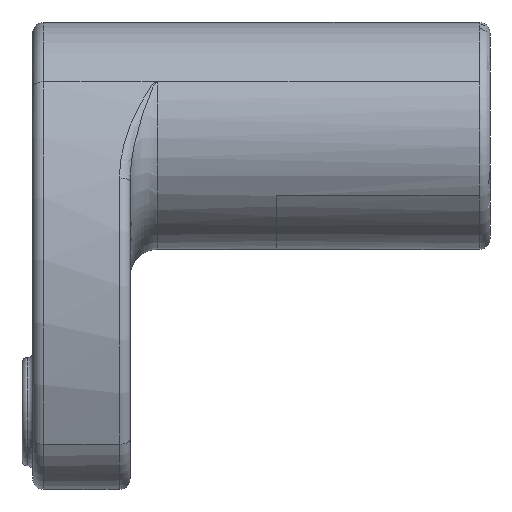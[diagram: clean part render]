
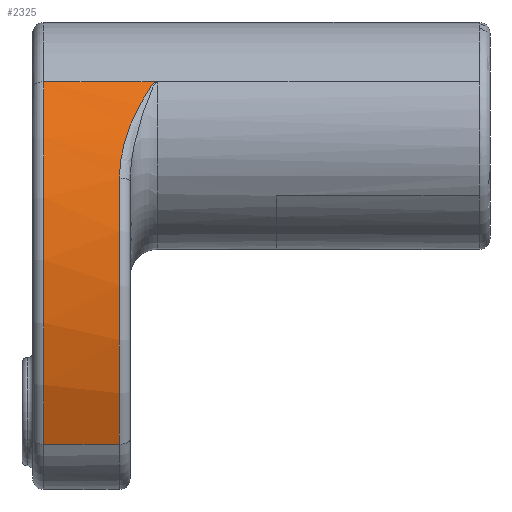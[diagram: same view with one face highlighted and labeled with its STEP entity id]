
A CAD part, left-side view. The second image highlights one B-rep face of the part: STEP entity #2325.
In plain terms, the highlighted cylindrical face has radius 70.363 mm (diameter 140.727 mm), a partial arc.
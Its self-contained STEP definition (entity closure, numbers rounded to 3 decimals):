
#37 = B_SPLINE_CURVE_WITH_KNOTS ( 'NONE', 3,
 ( #2960, #3230, #1237, #159 ),
 .UNSPECIFIED., .F., .F.,
 ( 4, 4 ),
 ( 0., 0.039 ),
 .UNSPECIFIED. ) ;
#48 = DIRECTION ( 'NONE',  ( 0., 1., 0. ) ) ;
#84 = CARTESIAN_POINT ( 'NONE',  ( -24.576, -16.723, -2.05 ) ) ;
#117 = B_SPLINE_CURVE_WITH_KNOTS ( 'NONE', 3,
 ( #619, #415, #935, #84, #3497, #1761, #2345, #2068, #1234, #914, #2107, #3227, #1780, #2385, #3539, #955, #483, #1576, #1319, #3029 ),
 .UNSPECIFIED., .F., .F.,
 ( 4, 2, 2, 2, 2, 2, 2, 2, 2, 4 ),
 ( 0., 0.005, 0.008, 0.01, 0.016, 0.018, 0.02, 0.02, 0.021, 0.021 ),
 .UNSPECIFIED. ) ;
#159 = CARTESIAN_POINT ( 'NONE',  ( -18.466, -20.005, 10. ) ) ;
#388 = AXIS2_PLACEMENT_3D ( 'NONE', #766, #2801, #1633 ) ;
#415 = CARTESIAN_POINT ( 'NONE',  ( -26.037, -16., -6.104 ) ) ;
#431 = CARTESIAN_POINT ( 'NONE',  ( -23., -16., -57. ) ) ;
#451 = B_SPLINE_CURVE_WITH_KNOTS ( 'NONE', 3,
 ( #3051, #1601, #1857, #487 ),
 .UNSPECIFIED., .F., .F.,
 ( 4, 4 ),
 ( 0.084, 1. ),
 .UNSPECIFIED. ) ;
#483 = CARTESIAN_POINT ( 'NONE',  ( -18.613, -22.383, 9.767 ) ) ;
#487 = CARTESIAN_POINT ( 'NONE',  ( -18.466, -20.005, 10. ) ) ;
#506 = CYLINDRICAL_SURFACE ( 'NONE', #388, 70.363 ) ;
#556 = AXIS2_PLACEMENT_3D ( 'NONE', #759, #2061, #2321 ) ;
#585 = CARTESIAN_POINT ( 'NONE',  ( 40.961, -2., -27.675 ) ) ;
#619 = CARTESIAN_POINT ( 'NONE',  ( -26.537, -16., -7.799 ) ) ;
#737 = EDGE_CURVE ( 'NONE', #2312, #2523, #1813, .T. ) ;
#747 = CARTESIAN_POINT ( 'NONE',  ( -18.466, -84.55, 10. ) ) ;
#759 = CARTESIAN_POINT ( 'NONE',  ( 40.961, -16., -27.675 ) ) ;
#766 = CARTESIAN_POINT ( 'NONE',  ( 40.961, -84.55, -27.675 ) ) ;
#783 = VERTEX_POINT ( 'NONE', #3222 ) ;
#914 = CARTESIAN_POINT ( 'NONE',  ( -20.354, -20.367, 6.852 ) ) ;
#935 = CARTESIAN_POINT ( 'NONE',  ( -25.484, -16.204, -4.459 ) ) ;
#955 = CARTESIAN_POINT ( 'NONE',  ( -18.657, -22.309, 9.697 ) ) ;
#973 = AXIS2_PLACEMENT_3D ( 'NONE', #585, #2252, #3442 ) ;
#987 = ORIENTED_EDGE ( 'NONE', *, *, #737, .T. ) ;
#1067 = ORIENTED_EDGE ( 'NONE', *, *, #3552, .T. ) ;
#1158 = CARTESIAN_POINT ( 'NONE',  ( -26.537, -16., -7.799 ) ) ;
#1234 = CARTESIAN_POINT ( 'NONE',  ( -21.5, -19.237, 4.761 ) ) ;
#1237 = CARTESIAN_POINT ( 'NONE',  ( -18.466, -19.67, 10.001 ) ) ;
#1319 = CARTESIAN_POINT ( 'NONE',  ( -18.494, -22.631, 9.957 ) ) ;
#1321 = ORIENTED_EDGE ( 'NONE', *, *, #2103, .F. ) ;
#1344 = LINE ( 'NONE', #747, #1451 ) ;
#1362 = ORIENTED_EDGE ( 'NONE', *, *, #1372, .F. ) ;
#1372 = EDGE_CURVE ( 'NONE', #2992, #3182, #37, .T. ) ;
#1451 = VECTOR ( 'NONE', #3591, 1000. ) ;
#1477 = ORIENTED_EDGE ( 'NONE', *, *, #3739, .T. ) ;
#1525 = LINE ( 'NONE', #2943, #1644 ) ;
#1576 = CARTESIAN_POINT ( 'NONE',  ( -18.532, -22.543, 9.896 ) ) ;
#1580 = FACE_OUTER_BOUND ( 'NONE', #2895, .T. ) ;
#1601 = CARTESIAN_POINT ( 'NONE',  ( -18.466, -21.822, 10.001 ) ) ;
#1633 = DIRECTION ( 'NONE',  ( 0., 0., 1. ) ) ;
#1644 = VECTOR ( 'NONE', #48, 1000. ) ;
#1668 = CARTESIAN_POINT ( 'NONE',  ( -18.466, -22.731, 10.001 ) ) ;
#1761 = CARTESIAN_POINT ( 'NONE',  ( -23.605, -17.411, 0.306 ) ) ;
#1780 = CARTESIAN_POINT ( 'NONE',  ( -19.18, -21.611, 8.852 ) ) ;
#1807 = CARTESIAN_POINT ( 'NONE',  ( -18.466, -19., 10. ) ) ;
#1813 = CIRCLE ( 'NONE', #556, 70.363 ) ;
#1857 = CARTESIAN_POINT ( 'NONE',  ( -18.466, -20.914, 10.001 ) ) ;
#1880 = ORIENTED_EDGE ( 'NONE', *, *, #2283, .T. ) ;
#2061 = DIRECTION ( 'NONE',  ( 0., 1., 0. ) ) ;
#2068 = CARTESIAN_POINT ( 'NONE',  ( -22.23, -18.558, 3.318 ) ) ;
#2103 = EDGE_CURVE ( 'NONE', #2312, #2799, #1525, .T. ) ;
#2107 = CARTESIAN_POINT ( 'NONE',  ( -19.964, -20.76, 7.534 ) ) ;
#2252 = DIRECTION ( 'NONE',  ( 0., -1., 0. ) ) ;
#2283 = EDGE_CURVE ( 'NONE', #2529, #3182, #451, .T. ) ;
#2312 = VERTEX_POINT ( 'NONE', #431 ) ;
#2321 = DIRECTION ( 'NONE',  ( 0., 0., -1. ) ) ;
#2325 = ADVANCED_FACE ( 'NONE', ( #1580 ), #506, .T. ) ;
#2345 = CARTESIAN_POINT ( 'NONE',  ( -23.268, -17.68, 1.07 ) ) ;
#2385 = CARTESIAN_POINT ( 'NONE',  ( -18.89, -21.972, 9.323 ) ) ;
#2523 = VERTEX_POINT ( 'NONE', #1158 ) ;
#2529 = VERTEX_POINT ( 'NONE', #1668 ) ;
#2774 = ORIENTED_EDGE ( 'NONE', *, *, #3717, .T. ) ;
#2799 = VERTEX_POINT ( 'NONE', #2832 ) ;
#2801 = DIRECTION ( 'NONE',  ( 0., 1., 0. ) ) ;
#2832 = CARTESIAN_POINT ( 'NONE',  ( -23., -2., -57. ) ) ;
#2895 = EDGE_LOOP ( 'NONE', ( #1477, #1067, #1321, #987, #2774, #1880, #1362 ) ) ;
#2943 = CARTESIAN_POINT ( 'NONE',  ( -23., -84.55, -57. ) ) ;
#2960 = CARTESIAN_POINT ( 'NONE',  ( -18.466, -19., 10. ) ) ;
#2992 = VERTEX_POINT ( 'NONE', #1807 ) ;
#3029 = CARTESIAN_POINT ( 'NONE',  ( -18.466, -22.731, 10.001 ) ) ;
#3051 = CARTESIAN_POINT ( 'NONE',  ( -18.466, -22.731, 10.001 ) ) ;
#3182 = VERTEX_POINT ( 'NONE', #3641 ) ;
#3222 = CARTESIAN_POINT ( 'NONE',  ( -18.466, -2., 10. ) ) ;
#3227 = CARTESIAN_POINT ( 'NONE',  ( -19.376, -21.393, 8.526 ) ) ;
#3230 = CARTESIAN_POINT ( 'NONE',  ( -18.466, -19.335, 10.001 ) ) ;
#3325 = CIRCLE ( 'NONE', #973, 70.363 ) ;
#3442 = DIRECTION ( 'NONE',  ( 0., 0., 1. ) ) ;
#3497 = CARTESIAN_POINT ( 'NONE',  ( -24.259, -16.932, -1.255 ) ) ;
#3539 = CARTESIAN_POINT ( 'NONE',  ( -18.795, -22.097, 9.477 ) ) ;
#3552 = EDGE_CURVE ( 'NONE', #783, #2799, #3325, .T. ) ;
#3591 = DIRECTION ( 'NONE',  ( 0., 1., 0. ) ) ;
#3641 = CARTESIAN_POINT ( 'NONE',  ( -18.466, -20.005, 10. ) ) ;
#3717 = EDGE_CURVE ( 'NONE', #2523, #2529, #117, .T. ) ;
#3739 = EDGE_CURVE ( 'NONE', #2992, #783, #1344, .T. ) ;
